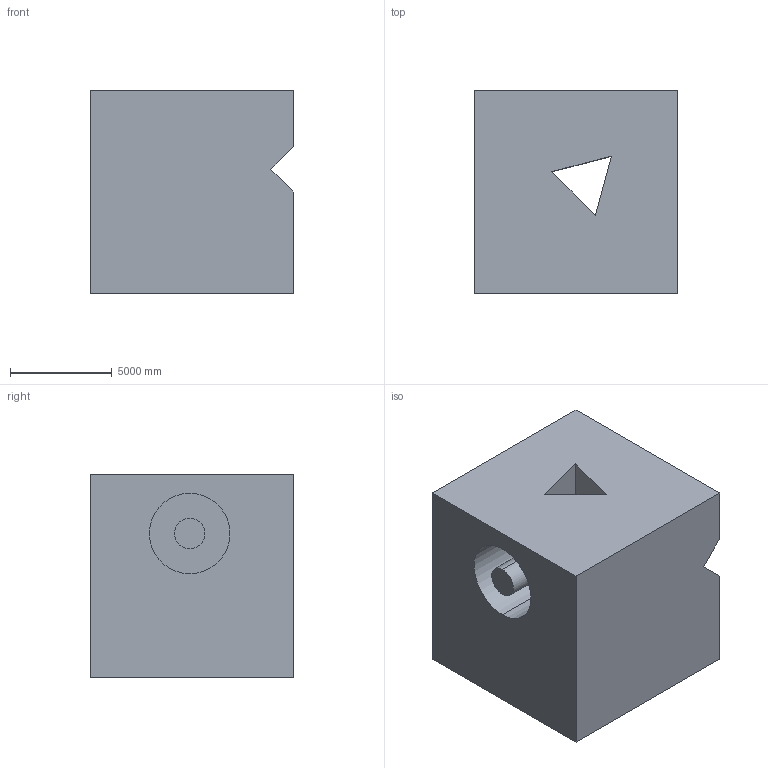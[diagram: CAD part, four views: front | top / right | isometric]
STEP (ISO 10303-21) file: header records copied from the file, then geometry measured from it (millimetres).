
FILE_DESCRIPTION (( 'STEP AP203' ), '1' );
FILE_NAME ('253.STEP', '2022-07-28T14:06:42', ( 'user' ), ( '' ), 'SwSTEP 2.0', 'SolidWorks 2021', '' );
FILE_SCHEMA (( 'CONFIG_CONTROL_DESIGN' ));
Length unit declared in the file: centimetre
Products named in the file (1): 253
Bounding box: 10000 x 10000 x 10000 mm (x, y, z)
Volume: 918230606452.1 mm3; surface area: 737529167.9 mm2
Topology: 1 solids, 1 shells, 18 faces, 42 edges, 28 vertices
Faces by surface type: plane 14, cylinder 4
Entity records: 595 total; most frequent: CARTESIAN_POINT 89, DIRECTION 88, ORIENTED_EDGE 84, EDGE_CURVE 42, VECTOR 34, LINE 34, VERTEX_POINT 28, AXIS2_PLACEMENT_3D 27
